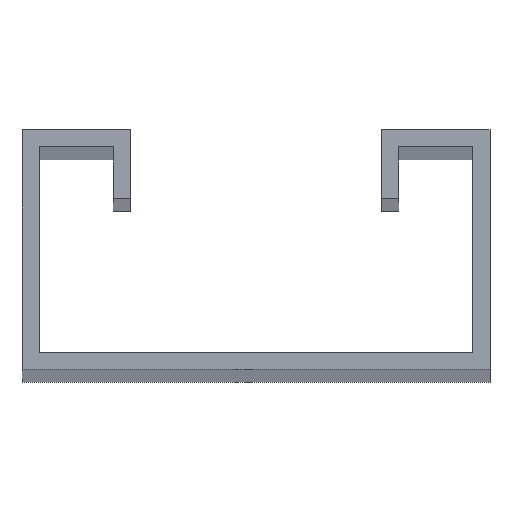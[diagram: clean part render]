
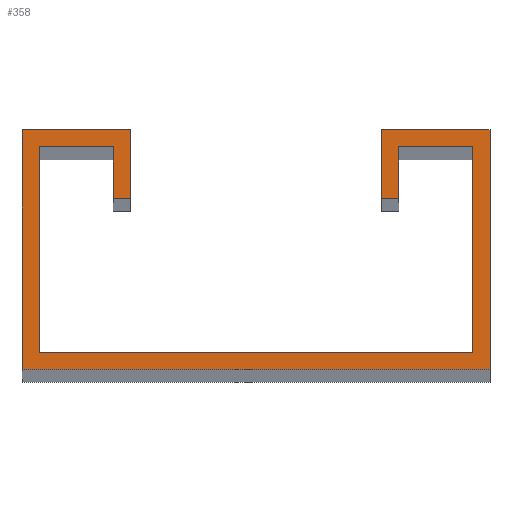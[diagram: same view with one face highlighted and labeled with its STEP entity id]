
A CAD part, top view. The second image highlights one B-rep face of the part: STEP entity #358.
In plain terms, the highlighted planar face has unit normal (0, 0, 1).
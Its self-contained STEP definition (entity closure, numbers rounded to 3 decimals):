
#32=FACE_OUTER_BOUND('',#50,.T.);
#50=EDGE_LOOP('',(#307,#308,#309,#310,#311,#312,#313,#314,#315,#316,#317,
#318,#319,#320,#321,#322));
#68=LINE('',#521,#116);
#70=LINE('',#525,#118);
#72=LINE('',#529,#120);
#74=LINE('',#533,#122);
#76=LINE('',#537,#124);
#78=LINE('',#541,#126);
#80=LINE('',#545,#128);
#82=LINE('',#549,#130);
#84=LINE('',#553,#132);
#86=LINE('',#557,#134);
#88=LINE('',#561,#136);
#90=LINE('',#565,#138);
#92=LINE('',#569,#140);
#94=LINE('',#573,#142);
#96=LINE('',#577,#144);
#98=LINE('',#580,#146);
#116=VECTOR('',#420,10.);
#118=VECTOR('',#424,10.);
#120=VECTOR('',#428,10.);
#122=VECTOR('',#432,10.);
#124=VECTOR('',#436,10.);
#126=VECTOR('',#440,10.);
#128=VECTOR('',#444,10.);
#130=VECTOR('',#448,10.);
#132=VECTOR('',#452,10.);
#134=VECTOR('',#456,10.);
#136=VECTOR('',#460,10.);
#138=VECTOR('',#464,10.);
#140=VECTOR('',#468,10.);
#142=VECTOR('',#472,10.);
#144=VECTOR('',#476,10.);
#146=VECTOR('',#480,10.);
#163=VERTEX_POINT('',#518);
#164=VERTEX_POINT('',#520);
#165=VERTEX_POINT('',#524);
#166=VERTEX_POINT('',#528);
#167=VERTEX_POINT('',#532);
#168=VERTEX_POINT('',#536);
#169=VERTEX_POINT('',#540);
#170=VERTEX_POINT('',#544);
#171=VERTEX_POINT('',#548);
#172=VERTEX_POINT('',#552);
#173=VERTEX_POINT('',#556);
#174=VERTEX_POINT('',#560);
#175=VERTEX_POINT('',#564);
#176=VERTEX_POINT('',#568);
#177=VERTEX_POINT('',#572);
#178=VERTEX_POINT('',#576);
#196=EDGE_CURVE('',#164,#163,#68,.T.);
#198=EDGE_CURVE('',#165,#164,#70,.T.);
#200=EDGE_CURVE('',#166,#165,#72,.T.);
#202=EDGE_CURVE('',#167,#166,#74,.T.);
#204=EDGE_CURVE('',#168,#167,#76,.T.);
#206=EDGE_CURVE('',#169,#168,#78,.T.);
#208=EDGE_CURVE('',#170,#169,#80,.T.);
#210=EDGE_CURVE('',#171,#170,#82,.T.);
#212=EDGE_CURVE('',#172,#171,#84,.T.);
#214=EDGE_CURVE('',#173,#172,#86,.T.);
#216=EDGE_CURVE('',#174,#173,#88,.T.);
#218=EDGE_CURVE('',#175,#174,#90,.T.);
#220=EDGE_CURVE('',#176,#175,#92,.T.);
#222=EDGE_CURVE('',#177,#176,#94,.T.);
#224=EDGE_CURVE('',#178,#177,#96,.T.);
#226=EDGE_CURVE('',#163,#178,#98,.T.);
#307=ORIENTED_EDGE('',*,*,#226,.T.);
#308=ORIENTED_EDGE('',*,*,#224,.T.);
#309=ORIENTED_EDGE('',*,*,#222,.T.);
#310=ORIENTED_EDGE('',*,*,#220,.T.);
#311=ORIENTED_EDGE('',*,*,#218,.T.);
#312=ORIENTED_EDGE('',*,*,#216,.T.);
#313=ORIENTED_EDGE('',*,*,#214,.T.);
#314=ORIENTED_EDGE('',*,*,#212,.T.);
#315=ORIENTED_EDGE('',*,*,#210,.T.);
#316=ORIENTED_EDGE('',*,*,#208,.T.);
#317=ORIENTED_EDGE('',*,*,#206,.T.);
#318=ORIENTED_EDGE('',*,*,#204,.T.);
#319=ORIENTED_EDGE('',*,*,#202,.T.);
#320=ORIENTED_EDGE('',*,*,#200,.T.);
#321=ORIENTED_EDGE('',*,*,#198,.T.);
#322=ORIENTED_EDGE('',*,*,#196,.T.);
#340=PLANE('',#396);
#358=ADVANCED_FACE('',(#32),#340,.T.);
#396=AXIS2_PLACEMENT_3D('',#581,#481,#482);
#420=DIRECTION('',(1.,0.,0.));
#424=DIRECTION('',(0.,-1.,0.));
#428=DIRECTION('',(1.,0.,0.));
#432=DIRECTION('',(0.,1.,0.));
#436=DIRECTION('',(-1.,0.,0.));
#440=DIRECTION('',(0.,-1.,0.));
#444=DIRECTION('',(1.,0.,0.));
#448=DIRECTION('',(0.,1.,0.));
#452=DIRECTION('',(1.,0.,0.));
#456=DIRECTION('',(0.,-1.,0.));
#460=DIRECTION('',(-1.,0.,0.));
#464=DIRECTION('',(0.,1.,0.));
#468=DIRECTION('',(1.,0.,0.));
#472=DIRECTION('',(0.,-1.,0.));
#476=DIRECTION('',(-1.,0.,0.));
#480=DIRECTION('',(0.,1.,0.));
#481=DIRECTION('center_axis',(0.,0.,1.));
#482=DIRECTION('ref_axis',(1.,0.,0.));
#518=CARTESIAN_POINT('',(-11.,6.3,320.));
#520=CARTESIAN_POINT('',(-12.5,6.3,320.));
#521=CARTESIAN_POINT('',(-12.5,6.3,320.));
#524=CARTESIAN_POINT('',(-12.5,10.8,320.));
#525=CARTESIAN_POINT('',(-12.5,10.8,320.));
#528=CARTESIAN_POINT('',(-19.,10.8,320.));
#529=CARTESIAN_POINT('',(-19.,10.8,320.));
#532=CARTESIAN_POINT('',(-19.,-7.2,320.));
#533=CARTESIAN_POINT('',(-19.,-7.2,320.));
#536=CARTESIAN_POINT('',(19.,-7.2,320.));
#537=CARTESIAN_POINT('',(19.,-7.2,320.));
#540=CARTESIAN_POINT('',(19.,10.8,320.));
#541=CARTESIAN_POINT('',(19.,10.8,320.));
#544=CARTESIAN_POINT('',(12.5,10.8,320.));
#545=CARTESIAN_POINT('',(12.5,10.8,320.));
#548=CARTESIAN_POINT('',(12.5,6.3,320.));
#549=CARTESIAN_POINT('',(12.5,6.3,320.));
#552=CARTESIAN_POINT('',(11.,6.3,320.));
#553=CARTESIAN_POINT('',(11.,6.3,320.));
#556=CARTESIAN_POINT('',(11.,12.3,320.));
#557=CARTESIAN_POINT('',(11.,12.3,320.));
#560=CARTESIAN_POINT('',(20.5,12.3,320.));
#561=CARTESIAN_POINT('',(20.5,12.3,320.));
#564=CARTESIAN_POINT('',(20.5,-8.7,320.));
#565=CARTESIAN_POINT('',(20.5,-8.7,320.));
#568=CARTESIAN_POINT('',(-20.5,-8.7,320.));
#569=CARTESIAN_POINT('',(-20.5,-8.7,320.));
#572=CARTESIAN_POINT('',(-20.5,12.3,320.));
#573=CARTESIAN_POINT('',(-20.5,12.3,320.));
#576=CARTESIAN_POINT('',(-11.,12.3,320.));
#577=CARTESIAN_POINT('',(-11.,12.3,320.));
#580=CARTESIAN_POINT('',(-11.,6.3,320.));
#581=CARTESIAN_POINT('Origin',(0.,0.43,320.));
